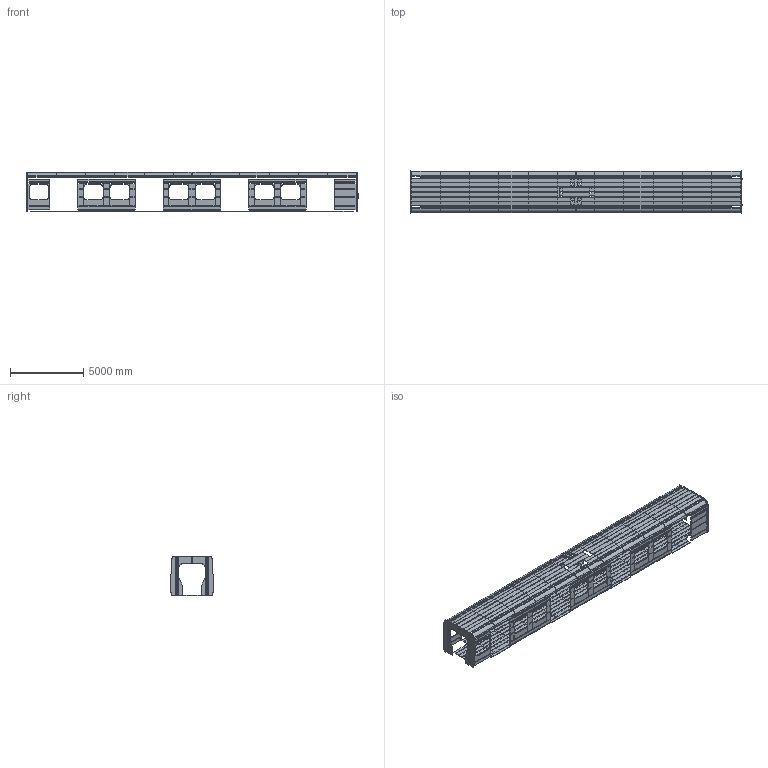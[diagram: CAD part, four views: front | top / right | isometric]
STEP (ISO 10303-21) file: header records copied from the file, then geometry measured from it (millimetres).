
FILE_DESCRIPTION(('CATIA V5 STEP Exchange'),'2;1');
FILE_NAME('J:\00-CAD3D\00-4_Cars\11-OA1_Car\25-Interiors\GZ11.25.14.00000_Thermal_and_acoustic_insulation\GZ11.25.14.00000.stp','2022-02-10T11:36:32+00:00',('none'),('none'),'CATIA Version 5-6 Release 2016','CATIA V5 STEP AP203','none');
FILE_SCHEMA(('CONFIG_CONTROL_DESIGN'));
Length unit declared in the file: millimetre
Products named in the file (10): GZ11.25.14.00000; GZ11.25.14.10000; Type A; Type B; GZ11.25.14.20000; Type A_1; Type B_1; GZ10.25.14.30000; GZ11.25.14.40000; GZ11.25.14.50000
Assembly tree (342 placements, depth 4):
  GZ11.25.14.00000
    GZ11.25.14.10000
      Type A
        #73  x6
        #281  x7
        #456  x6
        #781  x6
        #995  x6
        #1209  x3
        #1384  x3
        #1585  x3
        #1760  x3
        #1961  x2
        #2136  x2
        #2311
        #2552
        #2793
        #2981
        #3156  x6
        #3331  x3
        #3805
        #3980
        #4155
        #4330
      Type B
        #4526  x6
        #5143
        #6326
        #6779  x3
    GZ11.25.14.20000
      Type A_1
        #1961  x2
        #2793  x2
        #281  x8
        #2981  x2
        #2136  x2
        #7516
        #7757
        #1760  x3
        #1585  x3
        #995  x6
        #781  x6
        #3156  x6
        #456  x6
        #73  x6
        #1384  x3
        #1209  x3
        #3331  x3
        #2311
        #2552
      Type B_1
        #4526  x6
        #6779  x3
        #8851
        #10206
        #5143
        #6326
    GZ10.25.14.30000  x2
      #10822
      #11367
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Bounding box: 22620 x 2882.03 x 2670 mm (x, y, z)
Volume: 5801380705 mm3; surface area: 415847400.6 mm2
Topology: 366 solids, 390 shells, 5348 faces, 13960 edges, 9368 vertices
Faces by surface type: plane 4802, cylinder 502, extrusion 44
Entity records: 26954 total; most frequent: CARTESIAN_POINT 5608, DIRECTION 4408, ORIENTED_EDGE 3748, EDGE_CURVE 1866, VECTOR 1676, LINE 1650, AXIS2_PLACEMENT_3D 1446, VERTEX_POINT 1216
